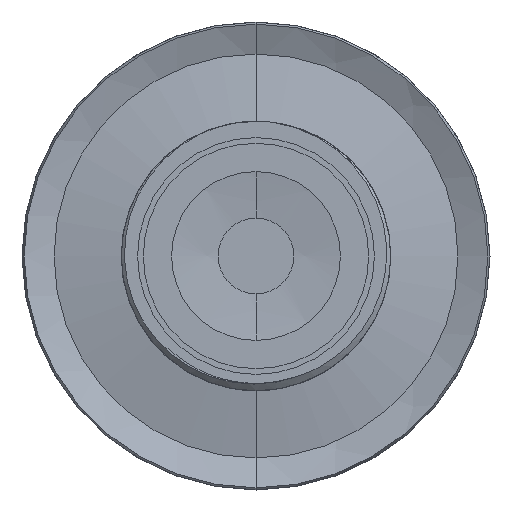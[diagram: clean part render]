
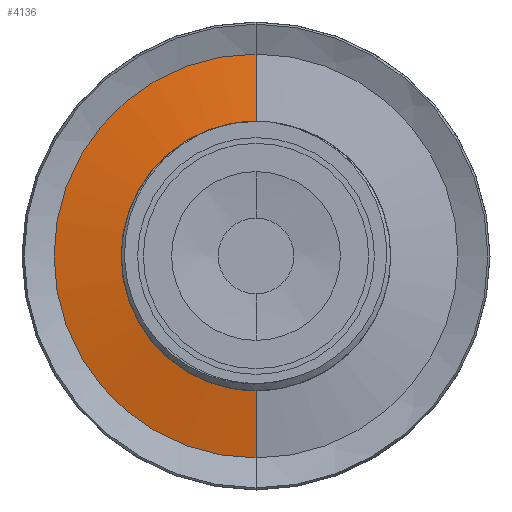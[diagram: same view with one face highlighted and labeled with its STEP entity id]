
A CAD part, front view. The second image highlights one B-rep face of the part: STEP entity #4136.
In plain terms, the highlighted conical face has half-angle 79.695 degrees and reference radius 20.675 mm.
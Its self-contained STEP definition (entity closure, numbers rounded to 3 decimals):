
#134 = DIRECTION ( 'NONE',  ( 0., 0., 1. ) ) ;
#191 = ORIENTED_EDGE ( 'NONE', *, *, #3440, .F. ) ;
#709 = DIRECTION ( 'NONE',  ( 0., -1., 0. ) ) ;
#894 = CARTESIAN_POINT ( 'NONE',  ( 0., -1.623, 0. ) ) ;
#1333 = CARTESIAN_POINT ( 'NONE',  ( 0., -3.5, -20.675 ) ) ;
#1795 = CIRCLE ( 'NONE', #1898, 20.675 ) ;
#1874 = LINE ( 'NONE', #2743, #3965 ) ;
#1898 = AXIS2_PLACEMENT_3D ( 'NONE', #6096, #709, #7206 ) ;
#2236 = ORIENTED_EDGE ( 'NONE', *, *, #4487, .T. ) ;
#2584 = VERTEX_POINT ( 'NONE', #4217 ) ;
#2660 = CARTESIAN_POINT ( 'NONE',  ( 0., -3.5, -20.675 ) ) ;
#2743 = CARTESIAN_POINT ( 'NONE',  ( 0., -3.5, 20.675 ) ) ;
#2825 = CIRCLE ( 'NONE', #6560, 31. ) ;
#2837 = FACE_OUTER_BOUND ( 'NONE', #6552, .T. ) ;
#3257 = VECTOR ( 'NONE', #4484, 1000. ) ;
#3440 = EDGE_CURVE ( 'NONE', #5957, #6867, #4728, .T. ) ;
#3965 = VECTOR ( 'NONE', #6787, 1000. ) ;
#4136 = ADVANCED_FACE ( 'NONE', ( #2837 ), #4504, .T. ) ;
#4217 = CARTESIAN_POINT ( 'NONE',  ( 0., -3.5, 20.675 ) ) ;
#4413 = EDGE_CURVE ( 'NONE', #6867, #6162, #2825, .T. ) ;
#4484 = DIRECTION ( 'NONE',  ( 0., 0.179, -0.984 ) ) ;
#4487 = EDGE_CURVE ( 'NONE', #2584, #6162, #1874, .T. ) ;
#4504 = CONICAL_SURFACE ( 'NONE', #7155, 20.675, 1.391 ) ;
#4728 = LINE ( 'NONE', #2660, #3257 ) ;
#5027 = CARTESIAN_POINT ( 'NONE',  ( 0., -3.5, 0. ) ) ;
#5182 = ORIENTED_EDGE ( 'NONE', *, *, #4413, .F. ) ;
#5687 = ORIENTED_EDGE ( 'NONE', *, *, #6106, .F. ) ;
#5690 = DIRECTION ( 'NONE',  ( 0., 1., 0. ) ) ;
#5957 = VERTEX_POINT ( 'NONE', #1333 ) ;
#6096 = CARTESIAN_POINT ( 'NONE',  ( 0., -3.5, 0. ) ) ;
#6106 = EDGE_CURVE ( 'NONE', #2584, #5957, #1795, .T. ) ;
#6162 = VERTEX_POINT ( 'NONE', #7467 ) ;
#6535 = DIRECTION ( 'NONE',  ( 0., 0., 1. ) ) ;
#6552 = EDGE_LOOP ( 'NONE', ( #191, #5687, #2236, #5182 ) ) ;
#6560 = AXIS2_PLACEMENT_3D ( 'NONE', #894, #5690, #6535 ) ;
#6756 = DIRECTION ( 'NONE',  ( 0., 1., 0. ) ) ;
#6787 = DIRECTION ( 'NONE',  ( 0., 0.179, 0.984 ) ) ;
#6861 = CARTESIAN_POINT ( 'NONE',  ( 0., -1.623, -31. ) ) ;
#6867 = VERTEX_POINT ( 'NONE', #6861 ) ;
#7155 = AXIS2_PLACEMENT_3D ( 'NONE', #5027, #6756, #134 ) ;
#7206 = DIRECTION ( 'NONE',  ( 0., 0., 1. ) ) ;
#7467 = CARTESIAN_POINT ( 'NONE',  ( 0., -1.623, 31. ) ) ;
